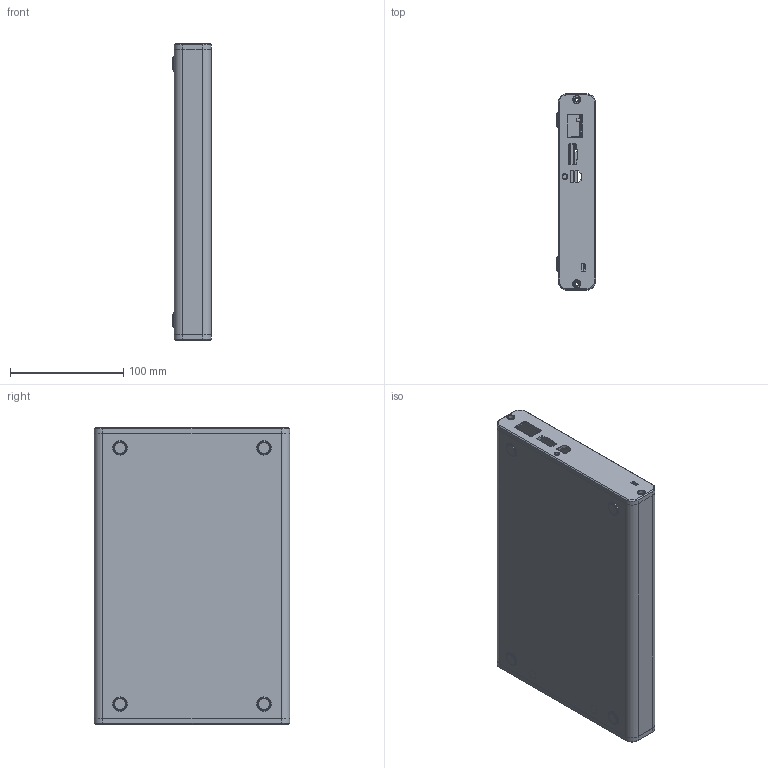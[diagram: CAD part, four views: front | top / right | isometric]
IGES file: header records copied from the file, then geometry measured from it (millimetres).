
Start section:  PTC IGES file: cu_assy_usb-x-series-ver5.igs
Global section: file name: cu_assy_usb-x-series-ver5.igs; native system: Pro/ENGINEER by Parametric Technology Corporation; preprocessor: 2006510; author: dkendric; organization: Unknown; date: 20100830.145854; units: inch
Bounding box: 34.65 x 172.72 x 261.62 mm (x, y, z)
Surface area: 251686.2 mm2 (no closed solid volume)
Topology: 0 solids, 0 shells, 1022 faces, 5086 edges, 5046 vertices
Faces by surface type: bspline 527, revolution 430, extrusion 65
